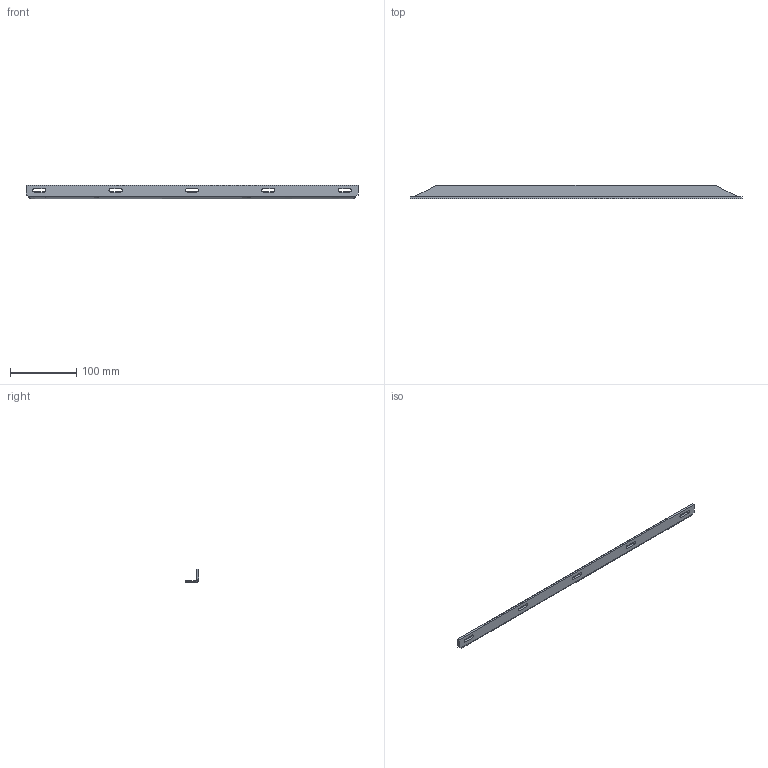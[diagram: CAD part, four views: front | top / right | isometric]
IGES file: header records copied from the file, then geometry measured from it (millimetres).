
Start section: SolidWorks IGES file using analytic representation for surfaces
Bounding box: 500 x 20 x 20 mm (x, y, z)
Surface area: 37408.1 mm2 (no closed solid volume)
Topology: 0 solids, 0 shells, 88 faces, 910 edges, 910 vertices
Faces by surface type: bspline 70, revolution 18
